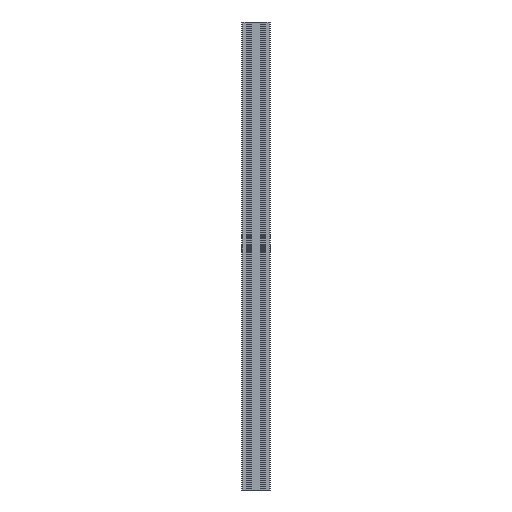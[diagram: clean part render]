
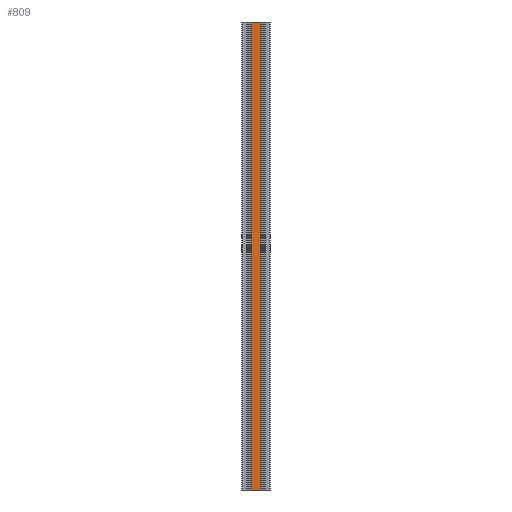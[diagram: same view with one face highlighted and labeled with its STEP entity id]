
A CAD part, front view. The second image highlights one B-rep face of the part: STEP entity #809.
In plain terms, the highlighted planar face has unit normal (0, -1, 0).
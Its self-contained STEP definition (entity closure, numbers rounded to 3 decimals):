
#243 = VECTOR ( 'NONE', #5877, 1000. ) ;
#454 = CARTESIAN_POINT ( 'NONE',  ( 25., -15.006, 0. ) ) ;
#481 = ORIENTED_EDGE ( 'NONE', *, *, #3197, .F. ) ;
#500 = CARTESIAN_POINT ( 'NONE',  ( 5., -15.006, 1000. ) ) ;
#809 = ADVANCED_FACE ( 'NONE', ( #3657 ), #3368, .F. ) ;
#833 = CARTESIAN_POINT ( 'NONE',  ( 25., -15.006, 0. ) ) ;
#836 = CARTESIAN_POINT ( 'NONE',  ( 25., -15.006, 1000. ) ) ;
#930 = VECTOR ( 'NONE', #5113, 1000. ) ;
#1060 = CARTESIAN_POINT ( 'NONE',  ( 25., -15.006, 1000. ) ) ;
#1102 = AXIS2_PLACEMENT_3D ( 'NONE', #836, #5069, #2401 ) ;
#1129 = EDGE_LOOP ( 'NONE', ( #1493, #481, #5423, #6080 ) ) ;
#1251 = CARTESIAN_POINT ( 'NONE',  ( 25., -15.006, 1000. ) ) ;
#1379 = DIRECTION ( 'NONE',  ( 1., 0., 0. ) ) ;
#1493 = ORIENTED_EDGE ( 'NONE', *, *, #6313, .T. ) ;
#1602 = LINE ( 'NONE', #1251, #243 ) ;
#2266 = EDGE_CURVE ( 'NONE', #2710, #4456, #3623, .T. ) ;
#2305 = CARTESIAN_POINT ( 'NONE',  ( 5., -15.006, 0. ) ) ;
#2401 = DIRECTION ( 'NONE',  ( -1., 0., 0. ) ) ;
#2566 = DIRECTION ( 'NONE',  ( 0., 0., -1. ) ) ;
#2575 = LINE ( 'NONE', #500, #6427 ) ;
#2710 = VERTEX_POINT ( 'NONE', #6160 ) ;
#3197 = EDGE_CURVE ( 'NONE', #4456, #4861, #1602, .T. ) ;
#3368 = PLANE ( 'NONE',  #1102 ) ;
#3623 = LINE ( 'NONE', #1060, #930 ) ;
#3657 = FACE_OUTER_BOUND ( 'NONE', #1129, .T. ) ;
#3775 = VERTEX_POINT ( 'NONE', #2305 ) ;
#3977 = VECTOR ( 'NONE', #1379, 1000. ) ;
#4456 = VERTEX_POINT ( 'NONE', #5703 ) ;
#4861 = VERTEX_POINT ( 'NONE', #454 ) ;
#5069 = DIRECTION ( 'NONE',  ( 0., 1., 0. ) ) ;
#5113 = DIRECTION ( 'NONE',  ( 1., 0., 0. ) ) ;
#5141 = EDGE_CURVE ( 'NONE', #2710, #3775, #2575, .T. ) ;
#5423 = ORIENTED_EDGE ( 'NONE', *, *, #2266, .F. ) ;
#5488 = LINE ( 'NONE', #833, #3977 ) ;
#5703 = CARTESIAN_POINT ( 'NONE',  ( 25., -15.006, 1000. ) ) ;
#5877 = DIRECTION ( 'NONE',  ( 0., 0., -1. ) ) ;
#6080 = ORIENTED_EDGE ( 'NONE', *, *, #5141, .T. ) ;
#6160 = CARTESIAN_POINT ( 'NONE',  ( 5., -15.006, 1000. ) ) ;
#6313 = EDGE_CURVE ( 'NONE', #3775, #4861, #5488, .T. ) ;
#6427 = VECTOR ( 'NONE', #2566, 1000. ) ;
